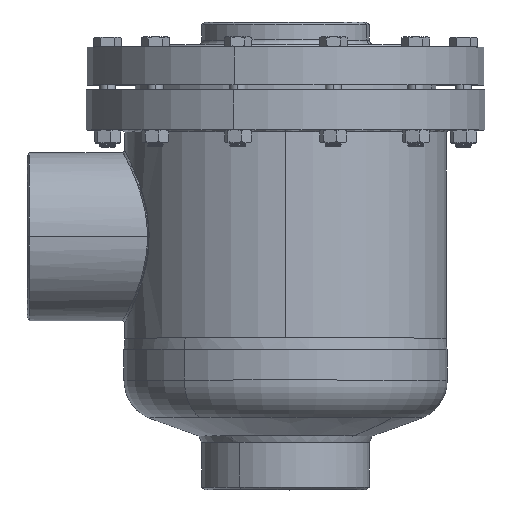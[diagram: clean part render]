
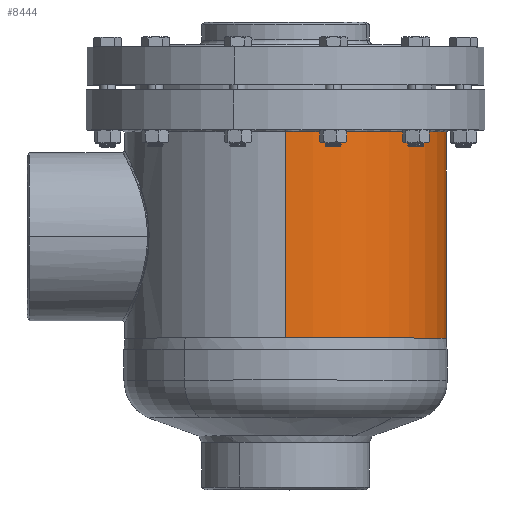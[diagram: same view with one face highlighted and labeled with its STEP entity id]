
A CAD part, top view. The second image highlights one B-rep face of the part: STEP entity #8444.
In plain terms, the highlighted cylindrical face has radius 161 mm (diameter 322 mm), a partial arc.
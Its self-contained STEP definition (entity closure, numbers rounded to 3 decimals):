
#16532 = FACE_OUTER_BOUND ( 'NONE', #5025, .T. ) ;
#16533 = CYLINDRICAL_SURFACE ( 'NONE', #16534, 161. ) ;
#16534 = AXIS2_PLACEMENT_3D ( 'NONE', #16535, #16556, #16557 ) ;
#16535 = CARTESIAN_POINT ( 'NONE',  ( 0., 45.442, 0. ) ) ;
#16556 = DIRECTION ( 'NONE',  ( 0., 1., 0. ) ) ;
#16557 = DIRECTION ( 'NONE',  ( 0., 0., 1. ) ) ;
#1475 = ORIENTED_EDGE ( 'NONE', *, *, #22199, .T. ) ;
#18170 = LINE ( 'NONE', #18171, #18199 ) ;
#18171 = CARTESIAN_POINT ( 'NONE',  ( 0., 45.442, 161. ) ) ;
#18199 = VECTOR ( 'NONE', #18200, 1000. ) ;
#18200 = DIRECTION ( 'NONE',  ( 0., 1., 0. ) ) ;
#2164 = VERTEX_POINT ( 'NONE', #6769 ) ;
#2608 = VERTEX_POINT ( 'NONE', #12124 ) ;
#3046 = EDGE_CURVE ( 'NONE', #2608, #2164, #12872, .T. ) ;
#19601 = VERTEX_POINT ( 'NONE', #26124 ) ;
#20035 = EDGE_CURVE ( 'NONE', #19601, #21765, #26372, .T. ) ;
#3764 = ORIENTED_EDGE ( 'NONE', *, *, #3046, .T. ) ;
#20752 = ORIENTED_EDGE ( 'NONE', *, *, #20035, .F. ) ;
#5025 = EDGE_LOOP ( 'NONE', ( #3764, #1475, #20752, #11654 ) ) ;
#21765 = VERTEX_POINT ( 'NONE', #27678 ) ;
#22199 = EDGE_CURVE ( 'NONE', #2164, #21765, #27941, .T. ) ;
#6769 = CARTESIAN_POINT ( 'NONE',  ( 0., -19.982, -161. ) ) ;
#8444 = ADVANCED_FACE ( 'NONE', ( #16532 ), #16533, .T. ) ;
#26124 = CARTESIAN_POINT ( 'NONE',  ( 0., 188.573, 161. ) ) ;
#26372 = CIRCLE ( 'NONE', #26373, 161. ) ;
#26373 = AXIS2_PLACEMENT_3D ( 'NONE', #26374, #26375, #26376 ) ;
#26374 = CARTESIAN_POINT ( 'NONE',  ( 0., 188.573, 0. ) ) ;
#26375 = DIRECTION ( 'NONE',  ( 0., 1., 0. ) ) ;
#26376 = DIRECTION ( 'NONE',  ( 0., 0., 1. ) ) ;
#10934 = EDGE_CURVE ( 'NONE', #2608, #19601, #18170, .T. ) ;
#27678 = CARTESIAN_POINT ( 'NONE',  ( 0., 188.573, -161. ) ) ;
#27941 = LINE ( 'NONE', #27961, #27962 ) ;
#27961 = CARTESIAN_POINT ( 'NONE',  ( 0., 45.442, -161. ) ) ;
#27962 = VECTOR ( 'NONE', #27963, 1000. ) ;
#27963 = DIRECTION ( 'NONE',  ( 0., 1., 0. ) ) ;
#11654 = ORIENTED_EDGE ( 'NONE', *, *, #10934, .F. ) ;
#12124 = CARTESIAN_POINT ( 'NONE',  ( 0., -19.982, 161. ) ) ;
#12872 = CIRCLE ( 'NONE', #12873, 161. ) ;
#12873 = AXIS2_PLACEMENT_3D ( 'NONE', #12874, #12875, #12876 ) ;
#12874 = CARTESIAN_POINT ( 'NONE',  ( 0., -19.982, 0. ) ) ;
#12875 = DIRECTION ( 'NONE',  ( 0., 1., 0. ) ) ;
#12876 = DIRECTION ( 'NONE',  ( 0., 0., 1. ) ) ;
